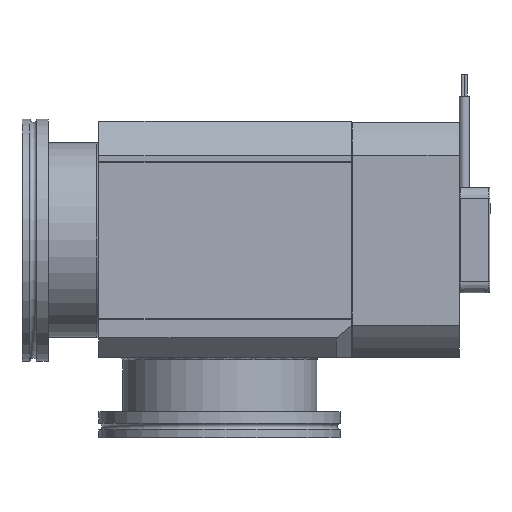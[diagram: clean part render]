
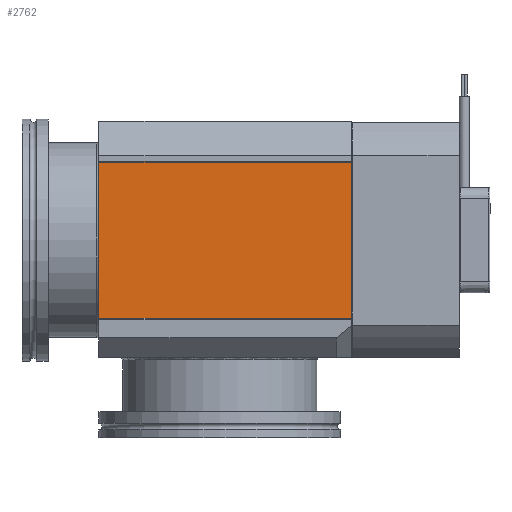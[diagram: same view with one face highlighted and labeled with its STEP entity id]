
A CAD part, left-side view. The second image highlights one B-rep face of the part: STEP entity #2762.
In plain terms, the highlighted planar face has unit normal (-1, 0, 0).
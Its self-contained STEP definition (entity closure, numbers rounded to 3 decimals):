
#2762=ADVANCED_FACE('',(#3575),#3198,.F.);
#3198=PLANE('',#11588);
#3575=FACE_OUTER_BOUND('',#4148,.T.);
#4148=EDGE_LOOP('',(#7701,#7702,#7703,#7704));
#5069=LINE('',#17350,#5799);
#5071=LINE('',#17354,#5801);
#5072=LINE('',#17356,#5802);
#5073=LINE('',#17358,#5803);
#5799=VECTOR('',#13777,1.);
#5801=VECTOR('',#13781,1.);
#5802=VECTOR('',#13782,1.);
#5803=VECTOR('',#13783,1.);
#7701=ORIENTED_EDGE('',*,*,#10199,.T.);
#7702=ORIENTED_EDGE('',*,*,#10201,.T.);
#7703=ORIENTED_EDGE('',*,*,#10202,.F.);
#7704=ORIENTED_EDGE('',*,*,#10203,.F.);
#9046=VERTEX_POINT('',#17349);
#9047=VERTEX_POINT('',#17351);
#9048=VERTEX_POINT('',#17355);
#9049=VERTEX_POINT('',#17357);
#10199=EDGE_CURVE('',#9047,#9046,#5069,.T.);
#10201=EDGE_CURVE('',#9046,#9048,#5071,.T.);
#10202=EDGE_CURVE('',#9049,#9048,#5072,.T.);
#10203=EDGE_CURVE('',#9047,#9049,#5073,.T.);
#11588=AXIS2_PLACEMENT_3D('',#17359,#13784,#13785);
#13777=DIRECTION('',(0.,-1.,0.));
#13781=DIRECTION('',(0.,0.,1.));
#13782=DIRECTION('',(0.,-1.,0.));
#13783=DIRECTION('',(0.,0.,1.));
#13784=DIRECTION('',(1.,0.,0.));
#13785=DIRECTION('',(0.,0.,-1.));
#17349=CARTESIAN_POINT('',(-53.5,3.05,-35.5));
#17350=CARTESIAN_POINT('',(-53.5,153.,-35.5));
#17351=CARTESIAN_POINT('',(-53.5,118.,-35.5));
#17354=CARTESIAN_POINT('',(-53.5,3.05,-39.));
#17355=CARTESIAN_POINT('',(-53.5,3.05,35.5));
#17356=CARTESIAN_POINT('',(-53.5,153.,35.5));
#17357=CARTESIAN_POINT('',(-53.5,118.,35.5));
#17358=CARTESIAN_POINT('',(-53.5,118.,-39.));
#17359=CARTESIAN_POINT('',(-53.5,153.,-39.));
